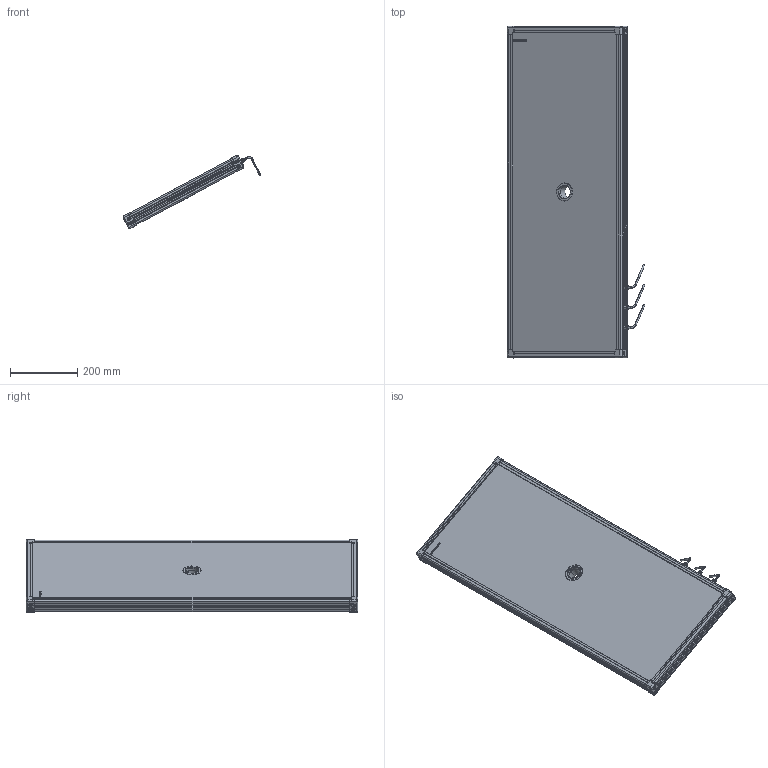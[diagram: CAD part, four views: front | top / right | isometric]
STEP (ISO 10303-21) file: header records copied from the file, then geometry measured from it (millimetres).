
FILE_DESCRIPTION (( 'STEP AP214' ), '1' );
FILE_NAME ('EFFI-FD-350-950-XXX-3M12.STEP', '2021-06-23T07:15:08', ( '' ), ( '' ), 'SwSTEP 2.0', 'SolidWorks 2021', '' );
FILE_SCHEMA (( 'AUTOMOTIVE_DESIGN' ));
Length unit declared in the file: millimetre
Products named in the file (13): profile Y_PERCE; petite joue + vis; cordon_Avec cable; 001036; Pièce13^EFFI-FD-XXX-YYY-ZZZ (3 connecteurs) Ø39; 000629; profile X_PERCE; EFFI-FD-350-950-XXX-3M12; assemblage Ø39; 000590; 001035; petite joue
Assembly tree (21 placements, depth 3):
  EFFI-FD-350-950-XXX-3M12
    profile X_PERCE  x2
    profile Y_PERCE
    profile Y_PERCE
    Pièce13^EFFI-FD-XXX-YYY-ZZZ (3 connecteurs) Ø39
    petite joue + vis  x4
      petite joue
      000629
    assemblage Ø39
      001036
      000590  x3
      001035
    cordon_Avec cable  x3
Bounding box: 410.42 x 989 x 217.5 mm (x, y, z)
Volume: 13280684 mm3; surface area: 1196670.5 mm2
Topology: 22 solids, 40 shells, 4073 faces, 10811 edges, 7106 vertices
Faces by surface type: plane 2528, cylinder 732, bspline 609, cone 156, torus 48
Entity records: 55817 total; most frequent: CARTESIAN_POINT 22582, ORIENTED_EDGE 6924, DIRECTION 5621, EDGE_CURVE 3466, VECTOR 2447, LINE 2447, VERTEX_POINT 2287, AXIS2_PLACEMENT_3D 1587
